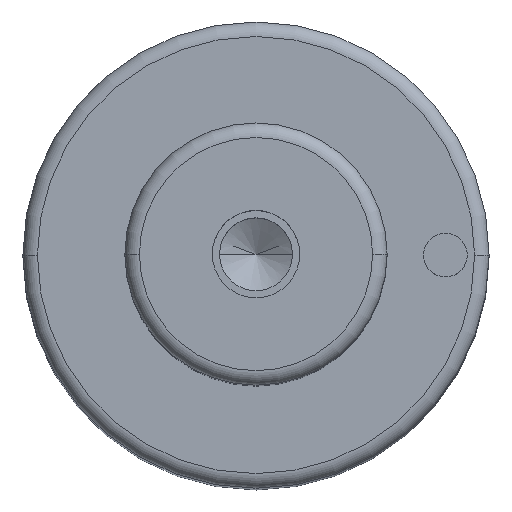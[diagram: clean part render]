
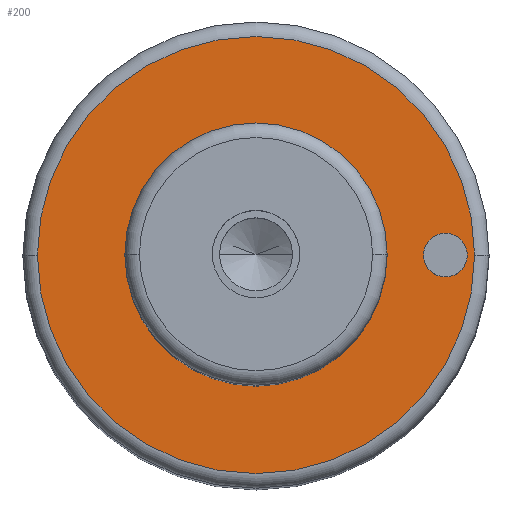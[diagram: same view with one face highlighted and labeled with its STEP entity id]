
A CAD part, top view. The second image highlights one B-rep face of the part: STEP entity #200.
In plain terms, the highlighted planar face has unit normal (0, 0, 1).
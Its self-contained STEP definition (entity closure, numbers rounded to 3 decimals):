
#99=PLANE('',#596);
#107=FACE_BOUND('',#265,.T.);
#108=FACE_BOUND('',#266,.T.);
#109=FACE_BOUND('',#267,.T.);
#200=ADVANCED_FACE('',(#107,#108,#109),#99,.T.);
#265=EDGE_LOOP('',(#359,#360));
#266=EDGE_LOOP('',(#361,#362));
#267=EDGE_LOOP('',(#363,#364));
#359=ORIENTED_EDGE('',*,*,#460,.F.);
#360=ORIENTED_EDGE('',*,*,#461,.F.);
#361=ORIENTED_EDGE('',*,*,#485,.F.);
#362=ORIENTED_EDGE('',*,*,#486,.F.);
#363=ORIENTED_EDGE('',*,*,#456,.T.);
#364=ORIENTED_EDGE('',*,*,#454,.T.);
#411=VERTEX_POINT('',#808);
#412=VERTEX_POINT('',#810);
#413=VERTEX_POINT('',#816);
#416=VERTEX_POINT('',#821);
#430=VERTEX_POINT('',#875);
#431=VERTEX_POINT('',#876);
#454=EDGE_CURVE('',#412,#411,#513,.T.);
#456=EDGE_CURVE('',#411,#412,#514,.T.);
#460=EDGE_CURVE('',#416,#413,#518,.T.);
#461=EDGE_CURVE('',#413,#416,#519,.T.);
#485=EDGE_CURVE('',#430,#431,#533,.T.);
#486=EDGE_CURVE('',#431,#430,#534,.T.);
#513=CIRCLE('',#558,9.);
#514=CIRCLE('',#560,9.);
#518=CIRCLE('',#565,15.);
#519=CIRCLE('',#567,15.);
#533=CIRCLE('',#594,1.5);
#534=CIRCLE('',#595,1.5);
#558=AXIS2_PLACEMENT_3D('',#809,#647,#648);
#560=AXIS2_PLACEMENT_3D('',#813,#652,#653);
#565=AXIS2_PLACEMENT_3D('',#822,#662,#663);
#567=AXIS2_PLACEMENT_3D('',#824,#666,#667);
#594=AXIS2_PLACEMENT_3D('',#874,#730,#731);
#595=AXIS2_PLACEMENT_3D('',#877,#732,#733);
#596=AXIS2_PLACEMENT_3D('',#878,#734,#735);
#647=DIRECTION('',(0.,0.,-1.));
#648=DIRECTION('',(0.,1.,0.));
#652=DIRECTION('',(0.,0.,-1.));
#653=DIRECTION('',(0.,-1.,0.));
#662=DIRECTION('',(0.,0.,-1.));
#663=DIRECTION('',(0.,1.,0.));
#666=DIRECTION('',(0.,0.,-1.));
#667=DIRECTION('',(0.,-1.,0.));
#730=DIRECTION('',(0.,0.,1.));
#731=DIRECTION('',(0.,1.,0.));
#732=DIRECTION('',(0.,0.,1.));
#733=DIRECTION('',(0.,-1.,0.));
#734=DIRECTION('',(0.,0.,1.));
#735=DIRECTION('',(0.,-1.,0.));
#808=CARTESIAN_POINT('',(-9.,0.,72.));
#809=CARTESIAN_POINT('',(0.,0.,72.));
#810=CARTESIAN_POINT('',(9.,0.,72.));
#813=CARTESIAN_POINT('',(0.,0.,72.));
#816=CARTESIAN_POINT('',(-15.,0.,72.));
#821=CARTESIAN_POINT('',(15.,0.,72.));
#822=CARTESIAN_POINT('',(0.,0.,72.));
#824=CARTESIAN_POINT('',(0.,0.,72.));
#874=CARTESIAN_POINT('',(13.,0.,72.));
#875=CARTESIAN_POINT('',(11.5,0.,72.));
#876=CARTESIAN_POINT('',(14.5,0.,72.));
#877=CARTESIAN_POINT('',(13.,0.,72.));
#878=CARTESIAN_POINT('',(0.,0.,72.));
